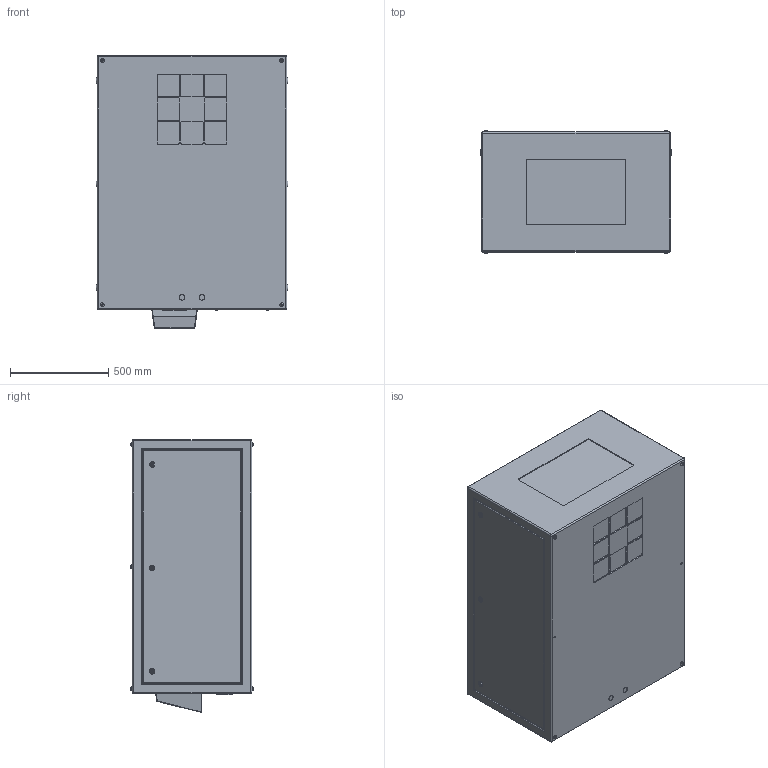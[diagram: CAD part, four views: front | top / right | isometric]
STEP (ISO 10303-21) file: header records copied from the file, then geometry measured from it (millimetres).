
FILE_DESCRIPTION (( 'STEP AP214' ), '1' );
FILE_NAME ('Cyclone 55.250.L.xx R08.STEP', '2020-04-07T14:44:45', ( '' ), ( '' ), 'SwSTEP 2.0', 'SolidWorks 2018', '' );
FILE_SCHEMA (( 'AUTOMOTIVE_DESIGN' ));
Length unit declared in the file: inch
Products named in the file (1): Cyclone 55.250.L.xx R08
Bounding box: 977.9 x 624.33 x 1390.65 mm (x, y, z)
Volume: 760287723.5 mm3; surface area: 5789955.7 mm2
Topology: 1 solids, 1 shells, 479 faces, 1118 edges, 712 vertices
Faces by surface type: plane 257, cylinder 170, torus 44, sphere 8
Entity records: 17242 total; most frequent: DIRECTION 2450, CARTESIAN_POINT 2350, ORIENTED_EDGE 2220, EDGE_CURVE 1110, AXIS2_PLACEMENT_3D 876, VERTEX_POINT 712, LINE 698, VECTOR 698
